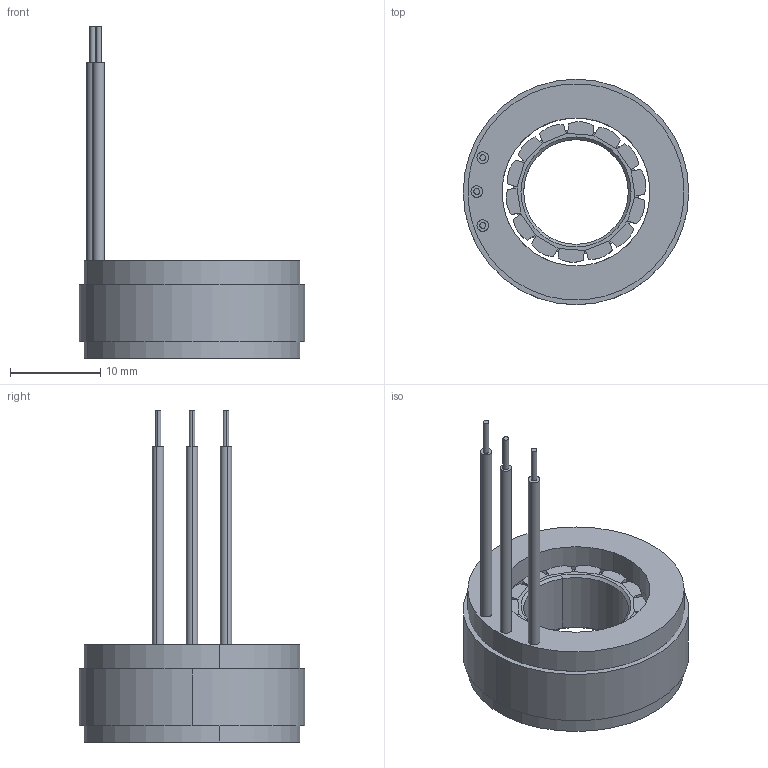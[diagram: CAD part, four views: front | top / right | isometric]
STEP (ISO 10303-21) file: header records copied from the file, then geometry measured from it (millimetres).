
FILE_DESCRIPTION (( 'STEP AP214' ), '1' );
FILE_NAME ('2510µç»ú-ÐÂ.STEP', '2025-02-15T01:20:41', ( '' ), ( '' ), 'SwSTEP 2.0', 'SolidWorks 2023', '' );
FILE_SCHEMA (( 'AUTOMOTIVE_DESIGN' ));
Length unit declared in the file: millimetre
Products named in the file (1): 2510电机-新
Bounding box: 25 x 25 x 36.8 mm (x, y, z)
Surface area: 4005.7 mm2 (no closed solid volume)
Topology: 0 solids, 21 shells, 107 faces, 560 edges, 468 vertices
Faces by surface type: plane 70, cylinder 33, cone 4
Entity records: 5552 total; most frequent: CARTESIAN_POINT 1136, DIRECTION 956, ORIENTED_EDGE 718, EDGE_CURVE 560, VERTEX_POINT 468, LINE 380, VECTOR 380, AXIS2_PLACEMENT_3D 288
